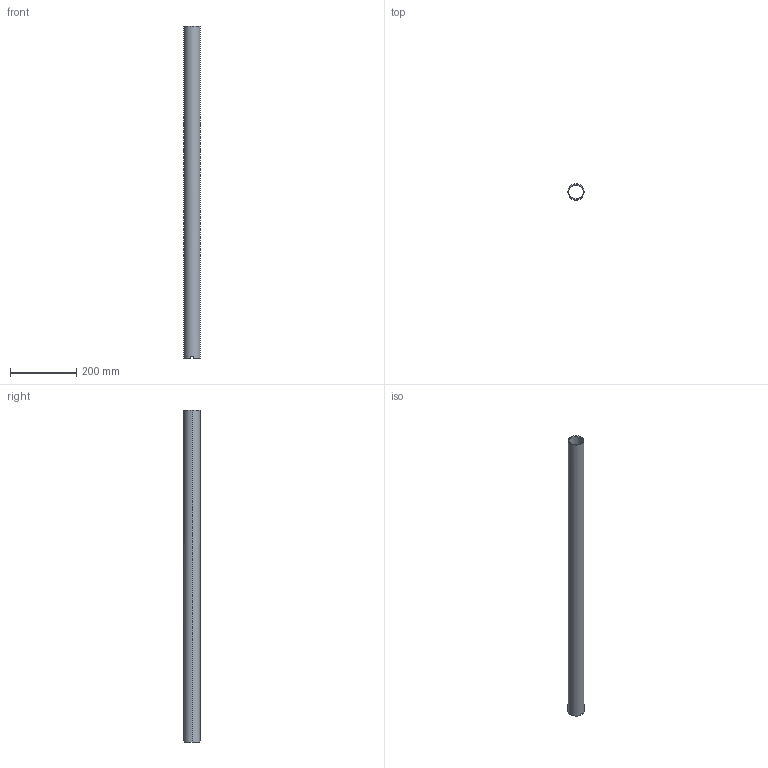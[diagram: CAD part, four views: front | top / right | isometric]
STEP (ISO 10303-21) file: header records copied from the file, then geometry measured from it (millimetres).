
FILE_DESCRIPTION (( 'STEP AP214' ), '1' );
FILE_NAME ('CCJ029-REP.233 - TUBE PIVOT PORTILLON A1-A2.STEP', '2024-01-29T10:22:36', ( '' ), ( '' ), 'SwSTEP 2.0', 'SolidWorks 2021', '' );
FILE_SCHEMA (( 'AUTOMOTIVE_DESIGN' ));
Length unit declared in the file: millimetre
Products named in the file (1): CCJ029-REP.233 - TUBE PIVOT PORTILLON A1-A2
Bounding box: 48.3 x 48.3 x 1000 mm (x, y, z)
Volume: 359514.8 mm3; surface area: 288360.4 mm2
Topology: 1 solids, 1 shells, 11 faces, 30 edges, 20 vertices
Faces by surface type: cylinder 8, plane 3
Entity records: 526 total; most frequent: CARTESIAN_POINT 210, ORIENTED_EDGE 60, DIRECTION 58, EDGE_CURVE 30, AXIS2_PLACEMENT_3D 24, VERTEX_POINT 20, CIRCLE 12, EDGE_LOOP 12
